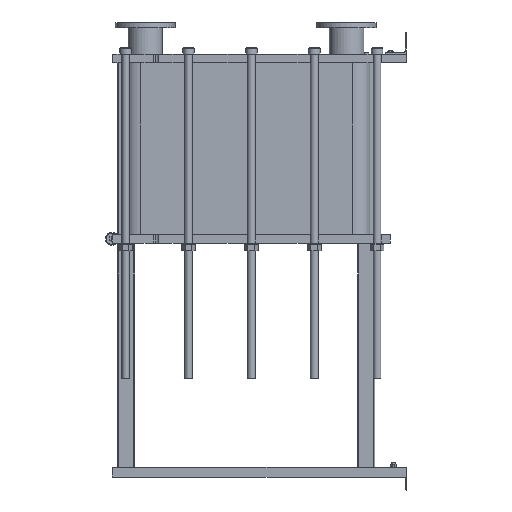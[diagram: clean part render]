
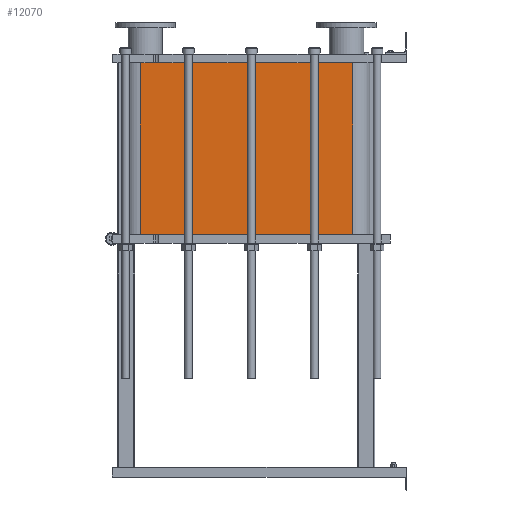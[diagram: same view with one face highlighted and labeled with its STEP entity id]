
A CAD part, left-side view. The second image highlights one B-rep face of the part: STEP entity #12070.
In plain terms, the highlighted planar face has unit normal (-1, 0, 0).
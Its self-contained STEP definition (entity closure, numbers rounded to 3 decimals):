
#1064=LINE('',#21140,#2164);
#1065=LINE('',#21144,#2165);
#1066=LINE('',#21146,#2166);
#1067=LINE('',#21147,#2167);
#2164=VECTOR('',#15790,10.);
#2165=VECTOR('',#15795,10.);
#2166=VECTOR('',#15796,10.);
#2167=VECTOR('',#15797,10.);
#3304=FACE_OUTER_BOUND('',#4091,.T.);
#4091=EDGE_LOOP('',(#9793,#9794,#9795,#9796));
#5677=VERTEX_POINT('',#21137);
#5678=VERTEX_POINT('',#21139);
#5679=VERTEX_POINT('',#21143);
#5680=VERTEX_POINT('',#21145);
#7118=EDGE_CURVE('',#5678,#5677,#1064,.T.);
#7120=EDGE_CURVE('',#5677,#5679,#1065,.T.);
#7121=EDGE_CURVE('',#5680,#5679,#1066,.T.);
#7122=EDGE_CURVE('',#5680,#5678,#1067,.T.);
#9793=ORIENTED_EDGE('',*,*,#7120,.T.);
#9794=ORIENTED_EDGE('',*,*,#7121,.F.);
#9795=ORIENTED_EDGE('',*,*,#7122,.T.);
#9796=ORIENTED_EDGE('',*,*,#7118,.T.);
#11441=PLANE('',#13191);
#12070=ADVANCED_FACE('',(#3304),#11441,.T.);
#13191=AXIS2_PLACEMENT_3D('',#21142,#15793,#15794);
#15790=DIRECTION('',(0.,0.,-1.));
#15793=DIRECTION('center_axis',(-1.,0.,0.));
#15794=DIRECTION('ref_axis',(0.,1.,0.));
#15795=DIRECTION('',(0.,-1.,0.));
#15796=DIRECTION('',(0.,0.,-1.));
#15797=DIRECTION('',(0.,1.,0.));
#21137=CARTESIAN_POINT('',(-248.152,1243.818,-803.85));
#21139=CARTESIAN_POINT('',(-248.152,1243.818,0.));
#21140=CARTESIAN_POINT('',(-248.152,1243.818,0.));
#21142=CARTESIAN_POINT('Origin',(-248.152,251.818,0.));
#21143=CARTESIAN_POINT('',(-248.152,251.818,-803.85));
#21144=CARTESIAN_POINT('',(-248.152,499.818,-803.85));
#21145=CARTESIAN_POINT('',(-248.152,251.818,0.));
#21146=CARTESIAN_POINT('',(-248.152,251.818,0.));
#21147=CARTESIAN_POINT('',(-248.152,251.818,0.));
